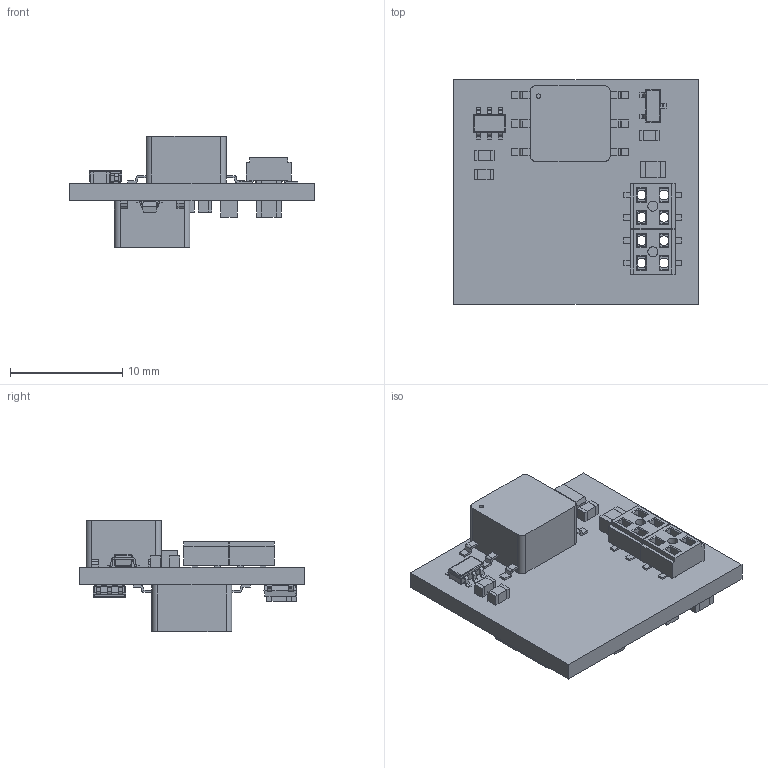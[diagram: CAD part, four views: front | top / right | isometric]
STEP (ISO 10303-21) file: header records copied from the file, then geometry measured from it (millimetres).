
FILE_DESCRIPTION(('Open CASCADE Model'),'2;1');
FILE_NAME('Open CASCADE Shape Model','2019-03-26T07:45:06',('Author'),( 'Open CASCADE'),'Open CASCADE STEP processor 6.8','Open CASCADE 6.8' ,'Unknown');
FILE_SCHEMA(('AUTOMOTIVE_DESIGN { 1 0 10303 214 1 1 1 1 }'));
Length unit declared in the file: millimetre
Products named in the file (44): PCB; Board; C900; 1411605408; Extruded; 1411605544; C901; C902; 1411605680; 1411605816; C903; C904; C905; 1411605952; 1411606088; C906; C907; 1411606224; 1411606360; C908; C909; D900; SW3dPS-sot-3p290x130ll237h100; D901; J900; CLT-102-02-G-D-BE; CLT-102-02-G-D-BE_2; CLT-102-02-G-D-BE_1; J901; T900; 750317722; T901; U900; DBV0006A; DBV0006A_2; DBV0006A_1; U901
Assembly tree (74 placements, depth 4):
  PCB
    Board
    C900
      1411605408  x2
        Extruded
      1411605544
        Extruded
    C901
      1411605408  x2
        Extruded
      1411605544
        Extruded
    C902
      1411605680  x2
        Extruded
      1411605816
        Extruded
    C903
      1411605680  x2
        Extruded
      1411605816
        Extruded
    C904
      1411605408  x2
        Extruded
      1411605544
        Extruded
    C905
      1411605952  x2
        Extruded
      1411606088
        Extruded
    C906
      1411605952  x2
        Extruded
      1411606088
        Extruded
    C907
      1411606224  x2
        Extruded
      1411606360
        Extruded
    C908
      1411605680  x2
        Extruded
      1411605816
        Extruded
    C909
      1411605952  x2
        Extruded
      1411606088
        Extruded
    D900
      SW3dPS-sot-3p290x130ll237h100
    D901
      SW3dPS-sot-3p290x130ll237h100
    J900
      CLT-102-02-G-D-BE
        CLT-102-02-G-D-BE_2
        CLT-102-02-G-D-BE_1
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Bounding box: 21.84 x 20.07 x 9.95 mm (x, y, z)
Volume: 1070.3 mm3; surface area: 2245.9 mm2
Topology: 53 solids, 53 shells, 920 faces, 2264 edges, 1464 vertices
Faces by surface type: plane 728, cylinder 176, sphere 16
Full cylindrical faces by diameter (mm): 0.393 x2, 0.86 x8, 0.889 x2, 1.9 x2, 4 x2
Entity records: 12510 total; most frequent: CARTESIAN_POINT 1976, DIRECTION 1862, ORIENTED_EDGE 1772, EDGE_CURVE 886, LINE 730, VECTOR 730, VERTEX_POINT 568, AXIS2_PLACEMENT_3D 566
